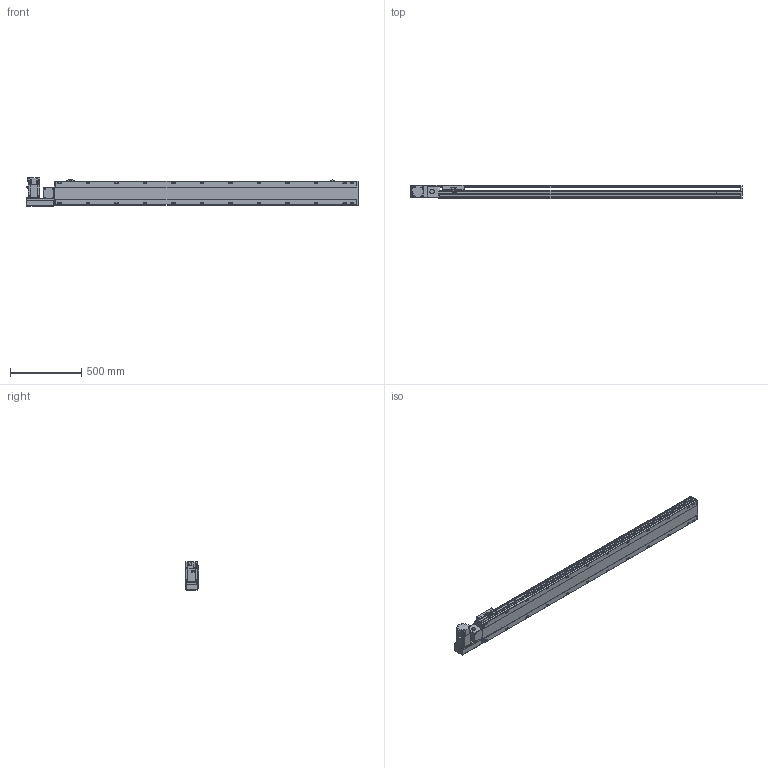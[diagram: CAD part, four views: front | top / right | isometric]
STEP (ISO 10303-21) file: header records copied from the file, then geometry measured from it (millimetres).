
FILE_DESCRIPTION( ( 'STEP AP214' ), '1' );
FILE_NAME( 'x:/temp/worker_4/temp/exporttempdir_2248_215_rE1tW/format_0/PBS170-P40-S1850-L-T75-C1-N(0).stp', '2022-06-07T06:57:51', ( 'License CC BY-ND 4.0' ), ( 'CADENAS' ), ' ', 'PARTsolutions', ' ' );
FILE_SCHEMA( ( 'AUTOMOTIVE_DESIGN { 1 0 10303 214 1 1 1 1 }' ) );
Length unit declared in the file: millimetre
Products named in the file (7): PBS170-P40-S1850-L-T75-C1-N(0); _PBS170-S1850()_body; _PBS170T-L_motors; _T75-p1; _PBS170_sliser; _PBS170_plant; _PBS170_sensor
Assembly tree (8 placements, depth 2):
  PBS170-P40-S1850-L-T75-C1-N(0)
    _PBS170-S1850()_body
    _PBS170T-L_motors
    _T75-p1
    _PBS170_sliser
    _PBS170_plant
    _PBS170_sensor  x3
Bounding box: 2328 x 97 x 197.3 mm (x, y, z)
Volume: 17044187.3 mm3; surface area: 2171960.1 mm2
Topology: 8 solids, 8 shells, 1146 faces, 3035 edges, 1978 vertices
Faces by surface type: plane 711, cylinder 371, cone 54, sphere 8, torus 2
Full cylindrical faces by diameter (mm): 3.242 x4, 4 x2, 4.4 x4, 4.5 x6, 4.917 x4, 6 x9, 6.647 x32, 7 x2, 7.5 x4, 8 x8, 8.5 x24, 10 x4, 10.5 x24, 11 x2, 30 x2, 40 x1, 70 x1
Entity records: 42308 total; most frequent: CARTESIAN_POINT 6893, DIRECTION 5580, ORIENTED_EDGE 5268, EDGE_CURVE 2634, AXIS2_PLACEMENT_3D 1957, VERTEX_POINT 1826, LINE 1666, VECTOR 1666
